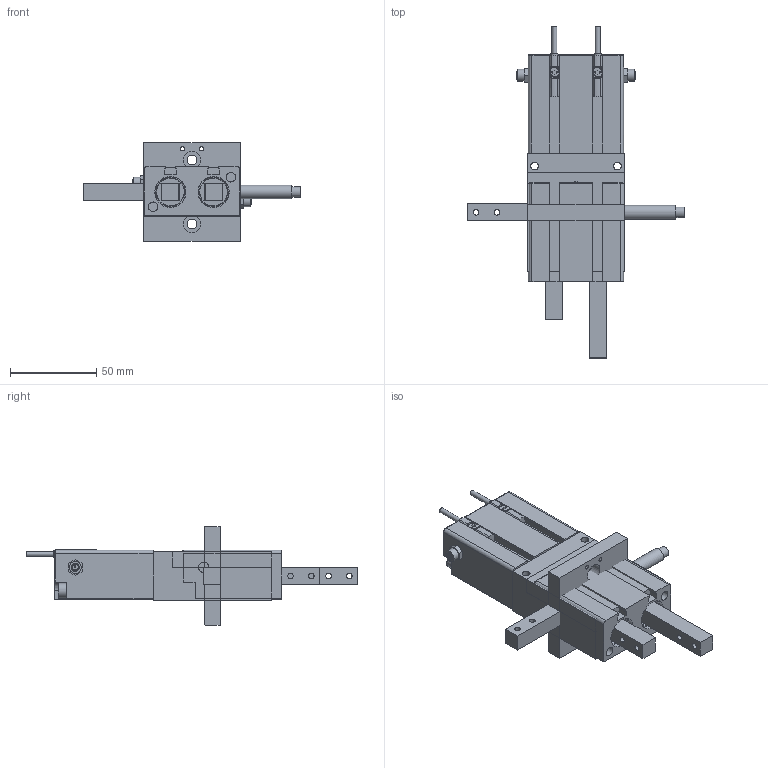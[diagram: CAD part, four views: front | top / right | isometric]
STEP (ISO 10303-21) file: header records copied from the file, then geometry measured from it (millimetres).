
FILE_DESCRIPTION( ( 'Vereinzelungsmodul' ), '1' );
FILE_NAME( 'S:/Normgeräte/Neutrale CAD Daten/PVM 2/Step/PVM2A_PVM2060.stp', '08.09.2010', ( 'MHeitzmann' ), ( 'Robo Mat AG' ), 'PSStep 13.0', 'Solid Edge', ' ' );
FILE_SCHEMA( ( 'AUTOMOTIVE_DESIGN { 1 0 10303 214 1 1 1 1 }' ) );
Length unit declared in the file: millimetre
Products named in the file (10): Assem1; PVM2116; PVM2101; PVM2121; PVM2117; W+S - Hohlschraube mit Auslassdrossel - 235-5000K - M5; Zylinderschraube - M5x12 - BN 612-A4; Zylinderschraube - M5x55 - BN 613-A4; KOENIG - Expander - HK030-CK55-111; SICK_MTZ8_03_VP0_KP0_Bestell_Nr_1044930
Bounding box: 125.5 x 192 x 57 mm (x, y, z)
Volume: 342331.4 mm3; surface area: 122396.4 mm2
Topology: 24 solids, 24 shells, 1096 faces, 2993 edges, 1973 vertices
Faces by surface type: plane 603, cylinder 405, cone 67, torus 19, sphere 2
Full cylindrical faces by diameter (mm): 0.8 x12, 1 x4, 2 x6, 2.459 x8, 2.5 x3, 2.9 x3, 3 x15, 3.1 x4, 3.242 x9, 3.5 x3, 4 x4, 4.134 x28, 4.5 x15, 5 x12, 5.4 x6, 5.5 x8, 5.8 x6, 5.999 x6, 6 x7, 7 x3, 8 x3, 8.5 x6, 9.2 x4, 10 x4, 11.5 x4, 16 x4, 18 x4
Entity records: 16610 total; most frequent: CARTESIAN_POINT 3067, DIRECTION 2096, ORIENTED_EDGE 1922, EDGE_CURVE 961, AXIS2_PLACEMENT_3D 754, VERTEX_POINT 695, EDGE_LOOP 616, LINE 588
